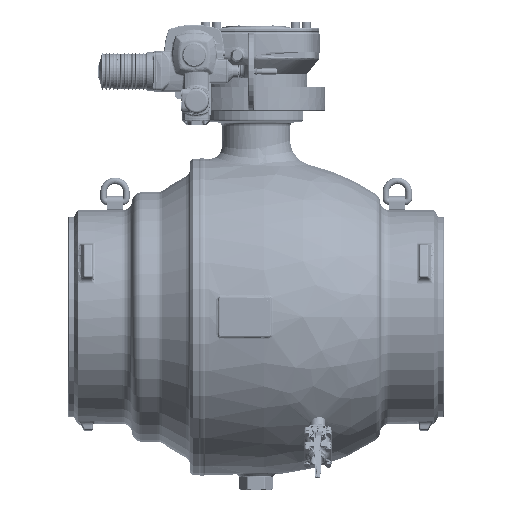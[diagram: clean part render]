
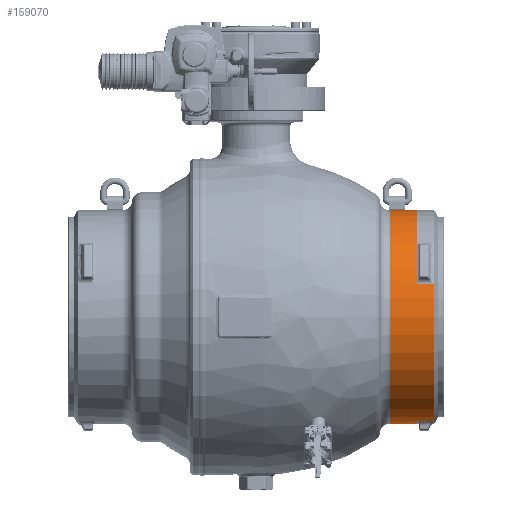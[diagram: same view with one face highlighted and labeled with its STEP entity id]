
A CAD part, top view. The second image highlights one B-rep face of the part: STEP entity #159070.
In plain terms, the highlighted cylindrical face has radius 432 mm (diameter 864 mm), a partial arc.
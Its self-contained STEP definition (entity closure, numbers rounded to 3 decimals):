
#37705=CARTESIAN_POINT('',(722.278,0.,0.));
#37706=DIRECTION('',(-1.,0.,0.));
#37707=DIRECTION('',(0.,0.,-1.));
#37708=AXIS2_PLACEMENT_3D('',#37705,#37706,#37707);
#37710=DIRECTION('',(-1.,0.,0.));
#37711=VECTOR('',#37710,0.04);
#37712=CARTESIAN_POINT('',(722.278,0.,-432.));
#37713=LINE('',#37712,#37711);
#37714=DIRECTION('',(-1.,0.,0.));
#37715=VECTOR('',#37714,71.238);
#37716=CARTESIAN_POINT('',(722.238,-92.061,
-422.077));
#37717=LINE('',#37716,#37715);
#37718=DIRECTION('',(-1.,0.,0.));
#37719=VECTOR('',#37718,109.307);
#37720=CARTESIAN_POINT('',(651.,0.,-432.));
#37721=LINE('',#37720,#37719);
#37722=CARTESIAN_POINT('',(541.693,0.,0.));
#37723=DIRECTION('',(1.,0.,0.));
#37724=DIRECTION('',(0.,0.,1.));
#37725=AXIS2_PLACEMENT_3D('',#37722,#37723,#37724);
#37727=DIRECTION('',(-1.,0.,0.));
#37728=VECTOR('',#37727,109.307);
#37729=CARTESIAN_POINT('',(651.,0.,432.));
#37730=LINE('',#37729,#37728);
#37731=CARTESIAN_POINT('',(651.,0.,0.));
#37732=DIRECTION('',(-1.,0.,0.));
#37733=DIRECTION('',(0.,-0.715,0.699));
#37734=AXIS2_PLACEMENT_3D('',#37731,#37732,#37733);
#37736=DIRECTION('',(-1.,0.,0.));
#37737=VECTOR('',#37736,71.238);
#37738=CARTESIAN_POINT('',(722.238,-411.56,
131.311));
#37739=LINE('',#37738,#37737);
#37740=CARTESIAN_POINT('',(722.238,0.,0.));
#37741=DIRECTION('',(1.,0.,0.));
#37742=DIRECTION('',(0.,0.,1.));
#37743=AXIS2_PLACEMENT_3D('',#37740,#37741,#37742);
#37745=DIRECTION('',(-1.,0.,0.));
#37746=VECTOR('',#37745,0.04);
#37747=CARTESIAN_POINT('',(722.278,0.,432.));
#37748=LINE('',#37747,#37746);
#37787=CARTESIAN_POINT('',(722.238,-92.061,
-422.077));
#37789=CARTESIAN_POINT('',(722.238,0.,0.));
#37790=DIRECTION('',(1.,0.,0.));
#37791=DIRECTION('',(0.,-0.213,-0.977));
#37792=AXIS2_PLACEMENT_3D('',#37789,#37790,#37791);
#37914=CARTESIAN_POINT('',(651.,-92.061,-422.077));
#38306=CARTESIAN_POINT('',(651.,0.,0.));
#38307=DIRECTION('',(-1.,0.,0.));
#38308=DIRECTION('',(0.,0.,-1.));
#38309=AXIS2_PLACEMENT_3D('',#38306,#38307,#38308);
#59712=CARTESIAN_POINT('',(651.,-411.56,131.311));
#59714=CARTESIAN_POINT('',(651.,0.,0.));
#59715=DIRECTION('',(-1.,0.,0.));
#59716=DIRECTION('',(0.,-0.953,0.304));
#59717=AXIS2_PLACEMENT_3D('',#59714,#59715,#59716);
#59852=CARTESIAN_POINT('',(722.238,0.,0.));
#59853=DIRECTION('',(1.,0.,0.));
#59854=DIRECTION('',(0.,-0.715,0.699));
#59855=AXIS2_PLACEMENT_3D('',#59852,#59853,#59854);
#59993=CARTESIAN_POINT('',(722.238,-411.56,
131.311));
#95309=CARTESIAN_POINT('',(541.693,0.,432.));
#95310=CARTESIAN_POINT('',(541.693,0.,-432.));
#95311=VERTEX_POINT('',#95309);
#95312=VERTEX_POINT('',#95310);
#95365=CARTESIAN_POINT('',(651.,0.,-432.));
#95366=VERTEX_POINT('',#95365);
#95367=CARTESIAN_POINT('',(651.,0.,432.));
#95368=VERTEX_POINT('',#95367);
#95369=CARTESIAN_POINT('',(651.,-308.937,301.964));
#95370=VERTEX_POINT('',#95369);
#95371=CARTESIAN_POINT('',(722.238,0.,432.));
#95372=CARTESIAN_POINT('',(722.238,-308.937,
301.964));
#95373=VERTEX_POINT('',#95371);
#95374=VERTEX_POINT('',#95372);
#95396=VERTEX_POINT('',#59712);
#95418=VERTEX_POINT('',#59993);
#95466=VERTEX_POINT('',#37787);
#95488=VERTEX_POINT('',#37914);
#95513=CARTESIAN_POINT('',(722.238,0.,-432.));
#95514=VERTEX_POINT('',#95513);
#95553=CARTESIAN_POINT('',(722.278,0.,432.));
#95554=CARTESIAN_POINT('',(722.278,0.,-432.));
#95555=VERTEX_POINT('',#95553);
#95556=VERTEX_POINT('',#95554);
#159041=CARTESIAN_POINT('',(837.85,0.,0.));
#159042=DIRECTION('',(-1.,0.,0.));
#159043=DIRECTION('',(0.,0.,1.));
#159044=AXIS2_PLACEMENT_3D('',#159041,#159042,#159043);
#159045=CYLINDRICAL_SURFACE('',#159044,432.);
#159047=ORIENTED_EDGE('',*,*,#159046,.F.);
#159048=ORIENTED_EDGE('',*,*,#159026,.T.);
#159050=ORIENTED_EDGE('',*,*,#159049,.F.);
#159052=ORIENTED_EDGE('',*,*,#159051,.T.);
#159054=ORIENTED_EDGE('',*,*,#159053,.F.);
#159055=ORIENTED_EDGE('',*,*,#159018,.T.);
#159057=ORIENTED_EDGE('',*,*,#159056,.F.);
#159058=ORIENTED_EDGE('',*,*,#159014,.F.);
#159059=ORIENTED_EDGE('',*,*,#159012,.F.);
#159061=ORIENTED_EDGE('',*,*,#159060,.F.);
#159063=ORIENTED_EDGE('',*,*,#159062,.F.);
#159065=ORIENTED_EDGE('',*,*,#159064,.F.);
#159066=ORIENTED_EDGE('',*,*,#159008,.F.);
#159067=ORIENTED_EDGE('',*,*,#159006,.F.);
#159068=EDGE_LOOP('',(#159047,#159048,#159050,#159052,#159054,#159055,#159057,
#159058,#159059,#159061,#159063,#159065,#159066,#159067));
#159069=FACE_OUTER_BOUND('',#159068,.F.);
#159070=ADVANCED_FACE('',(#159069),#159045,.T.);
#37709=CIRCLE('',#37708,432.);
#37726=CIRCLE('',#37725,432.);
#37735=CIRCLE('',#37734,432.);
#37744=CIRCLE('',#37743,432.);
#37793=CIRCLE('',#37792,432.);
#38310=CIRCLE('',#38309,432.);
#59718=CIRCLE('',#59717,432.);
#59856=CIRCLE('',#59855,432.);
#159006=EDGE_CURVE('',#95555,#95373,#37748,.T.);
#159008=EDGE_CURVE('',#95373,#95374,#37744,.T.);
#159012=EDGE_CURVE('',#95370,#95368,#37735,.T.);
#159014=EDGE_CURVE('',#95368,#95311,#37730,.T.);
#159018=EDGE_CURVE('',#95366,#95312,#37721,.T.);
#159026=EDGE_CURVE('',#95556,#95514,#37713,.T.);
#159046=EDGE_CURVE('',#95556,#95555,#37709,.T.);
#159049=EDGE_CURVE('',#95466,#95514,#37793,.T.);
#159051=EDGE_CURVE('',#95466,#95488,#37717,.T.);
#159053=EDGE_CURVE('',#95366,#95488,#38310,.T.);
#159056=EDGE_CURVE('',#95311,#95312,#37726,.T.);
#159060=EDGE_CURVE('',#95396,#95370,#59718,.T.);
#159062=EDGE_CURVE('',#95418,#95396,#37739,.T.);
#159064=EDGE_CURVE('',#95374,#95418,#59856,.T.);
